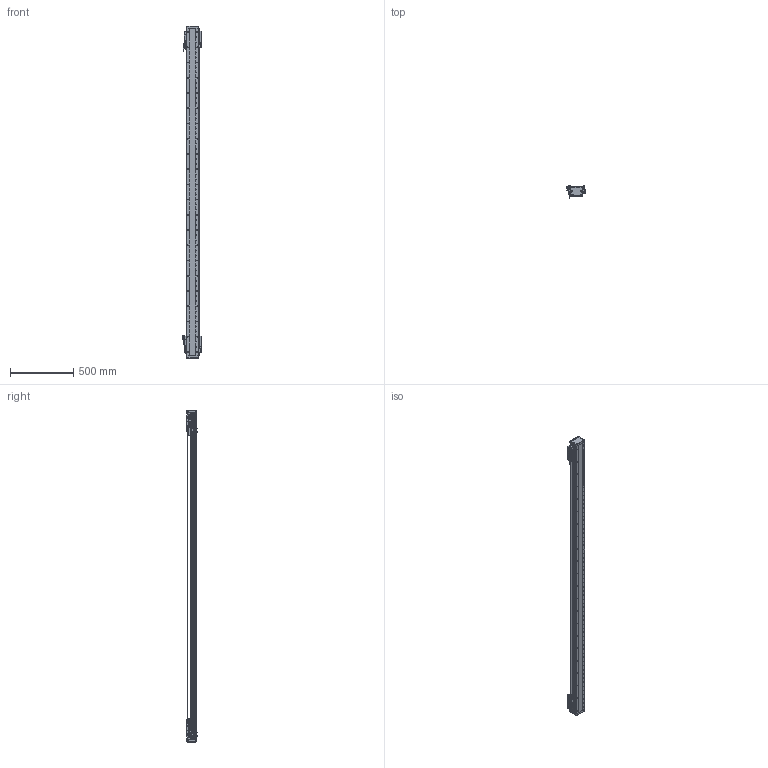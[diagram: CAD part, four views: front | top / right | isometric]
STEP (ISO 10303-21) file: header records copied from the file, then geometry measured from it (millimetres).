
FILE_DESCRIPTION (( 'STEP AP203' ), '1' );
FILE_NAME ('DA-B95-2-B15-T2240-C010-0.2 直线电机.STEP', '2023-05-06T06:38:16', ( '微软用户' ), ( '微软中国' ), 'SwSTEP 2.0', 'SolidWorks 2019', '' );
FILE_SCHEMA (( 'CONFIG_CONTROL_DESIGN' ));
Length unit declared in the file: millimetre
Products named in the file (34): 66245-BU95-V-00 珨极趙賑雄怢啣; 复件 66245-BU95-HT-V-01 滑动台板^66245-BU95-V-00 一体化滑动台板; 葩璃 PM-Y45^DA-A95-B15-T-C010-0.2-N 眻盄萇儂; 复件 DA95-DK-00 挡块^66245-BU95-V 滚珠滑台; IU-BU95-L 菁釱絳寢; B15 XD-U-02L ｴﾅﾕ､ｳﾟ^DA-A95-B15-T-C010-0.2-N ﾖｱﾏﾟｵ扈銈XD-U-02L; 66245-BU95-V 幗紩賑怢; 复件 DKW-GYP-ZJ-00 中间光电感应片^DA-A95-B15-T-C010-0.2-N 直线电机; 复件 DKW-KGZ-ZJ-00 中间光电开关支架^DA-A95-B15-T-C010-0.2-N 直线电机; DA95-HXJ-00 缓冲橡胶^DA-A95-B15-T-C010-0.2-N 直线电机; 复件 DKW-HXJ-JY-00 缓冲橡胶^DA-A95-B15-T-C010-0.2-N 直线电机; DA-B95-2-B15-T2240-C010-0.2 眻盄萇儂; 复件 复件 18252-0001-004-00 钢带端盖^DA-A95-B15-T-C010-0.2-N 直线电机; LMDK-2-R001-V5-L02-C1-F00，0.2M 读数头^DA-A95-B15-T-C010-0.2-N 直线电机_DMA-010-0.2; 复件 DA95-B15 钢带盖板^DA-A95-B15-T-C010-0.2-N 直线电机; 葩璃 BKMA01-W060-TRL^DA-A95-B15-T-C010-0.2-N 眻盄萇儂; 葩璃 DA95-B15-DP-A-00 菜えA^66245-BU95-V 幗紩賑怢; 葩璃 DA95-GT-T-00^IU-BU95-L 菁釱絳寢_DA95; DA-A95-GYP-00 光电感应片^DA-A95-B15-T-C010-0.2-N 直线电机; 复件 DA95-B15-YB-B-00 压板B^66245-BU95-V 滚珠滑台; 复件 DA95-HK-GT-00 滑块钢轨^66245-BU95-V-00 一体化滑动台板; 复件 六角薄螺母 M3^DA-A95-B15-T-C010-0.2-N 直线电机_GB_FASTENER_NUT_STNAB M3-C; 复件 复件 18252-0001-003-00 钢带拉块^DA-A95-B15-T-C010-0.2-N 直线电机; 复件 DA95-DB-00  挡板^66245-BU95-V 滚珠滑台; 葩璃 BKM015-W060-C1-TP-DA-0.2^DA-A95-B15-T-C010-0.2-N 眻盄萇儂; 复件 纯铜油杯 6x6mm^66245-BU95-V 滚珠滑台; 葩璃 DA95-B15-DP--B-00 菜えB^66245-BU95-V 幗紩賑怢; IU-BU95-L-00 菁釱_L2580; 复件 DA95-MFP-01 密封片^66245-BU95-V 滚珠滑台; 复件 DA95-B15-YB-A-00 压板A^66245-BU95-V 滚珠滑台; PM-T45 光电开关^DA-A95-B15-T-C010-0.2-N 直线电机; 复件 复件 18252-0001-002-00 钢带垫块^DA-A95-B15-T-C010-0.2-N 直线电机
Assembly tree (80 placements, depth 4):
  DA-B95-2-B15-T2240-C010-0.2 眻盄萇儂
    IU-BU95-L 菁釱絳寢
      IU-BU95-L-00 菁釱_L2580
      葩璃 DA95-GT-T-00^IU-BU95-L 菁釱絳寢_DA95  x2
    66245-BU95-V 幗紩賑怢
      66245-BU95-V-00 珨极趙賑雄怢啣
        复件 66245-BU95-HT-V-01 滑动台板^66245-BU95-V-00 一体化滑动台板
        复件 DA95-HK-GT-00 滑块钢轨^66245-BU95-V-00 一体化滑动台板  x2
      葩璃 DA95-B15-DP-A-00 菜えA^66245-BU95-V 幗紩賑怢
      复件 DA95-B15-YB-A-00 压板A^66245-BU95-V 滚珠滑台
      复件 DA95-B15-YB-B-00 压板B^66245-BU95-V 滚珠滑台
      复件 DA95-DB-00  挡板^66245-BU95-V 滚珠滑台  x4
      复件 DA95-DK-00 挡块^66245-BU95-V 滚珠滑台  x2
      复件 DA95-MFP-01 密封片^66245-BU95-V 滚珠滑台  x4
      复件 纯铜油杯 6x6mm^66245-BU95-V 滚珠滑台  x2
      葩璃 DA95-B15-DP--B-00 菜えB^66245-BU95-V 幗紩賑怢
    66245-BU95-V 幗紩賑怢
      66245-BU95-V-00 珨极趙賑雄怢啣
        复件 66245-BU95-HT-V-01 滑动台板^66245-BU95-V-00 一体化滑动台板
        复件 DA95-HK-GT-00 滑块钢轨^66245-BU95-V-00 一体化滑动台板  x2
      葩璃 DA95-B15-DP-A-00 菜えA^66245-BU95-V 幗紩賑怢
      复件 DA95-B15-YB-A-00 压板A^66245-BU95-V 滚珠滑台
      复件 DA95-B15-YB-B-00 压板B^66245-BU95-V 滚珠滑台
      复件 DA95-DB-00  挡板^66245-BU95-V 滚珠滑台  x4
      复件 DA95-DK-00 挡块^66245-BU95-V 滚珠滑台  x2
      复件 DA95-MFP-01 密封片^66245-BU95-V 滚珠滑台  x4
      复件 纯铜油杯 6x6mm^66245-BU95-V 滚珠滑台  x2
      葩璃 DA95-B15-DP--B-00 菜えB^66245-BU95-V 幗紩賑怢
    DA-A95-GYP-00 光电感应片^DA-A95-B15-T-C010-0.2-N 直线电机  x2
    LMDK-2-R001-V5-L02-C1-F00，0.2M 读数头^DA-A95-B15-T-C010-0.2-N 直线电机_DMA-010-0.2  x2
    复件 DKW-KGZ-ZJ-00 中间光电开关支架^DA-A95-B15-T-C010-0.2-N 直线电机
    葩璃 PM-Y45^DA-A95-B15-T-C010-0.2-N 眻盄萇儂
    复件 DKW-GYP-ZJ-00 中间光电感应片^DA-A95-B15-T-C010-0.2-N 直线电机
    葩璃 BKM015-W060-C1-TP-DA-0.2^DA-A95-B15-T-C010-0.2-N 眻盄萇儂  x2
    复件 DKW-HXJ-JY-00 缓冲橡胶^DA-A95-B15-T-C010-0.2-N 直线电机  x2
    PM-T45 光电开关^DA-A95-B15-T-C010-0.2-N 直线电机  x4
    B15 XD-U-02L ｴﾅﾕ､ｳﾟ^DA-A95-B15-T-C010-0.2-N ﾖｱﾏﾟｵ扈銈XD-U-02L
    复件 复件 18252-0001-003-00 钢带拉块^DA-A95-B15-T-C010-0.2-N 直线电机  x2
    复件 复件 18252-0001-002-00 钢带垫块^DA-A95-B15-T-C010-0.2-N 直线电机  x2
    复件 复件 18252-0001-004-00 钢带端盖^DA-A95-B15-T-C010-0.2-N 直线电机  x2
    复件 DA95-B15 钢带盖板^DA-A95-B15-T-C010-0.2-N 直线电机
    DA95-HXJ-00 缓冲橡胶^DA-A95-B15-T-C010-0.2-N 直线电机  x4
    葩璃 BKMA01-W060-TRL^DA-A95-B15-T-C010-0.2-N 眻盄萇儂
    复件 六角薄螺母 M3^DA-A95-B15-T-C010-0.2-N 直线电机_GB_FASTENER_NUT_STNAB M3-C  x6
Bounding box: 145.4 x 90.2 x 2616 mm (x, y, z)
Volume: 8461657.6 mm3; surface area: 2805287.5 mm2
Topology: 75 solids, 93 shells, 4236 faces, 11956 edges, 7583 vertices
Faces by surface type: cylinder 2181, plane 1523, cone 464, torus 64, sphere 4
Entity records: 103206 total; most frequent: CARTESIAN_POINT 27184, ORIENTED_EDGE 15270, DIRECTION 14738, EDGE_CURVE 7635, AXIS2_PLACEMENT_3D 5609, VERTEX_POINT 4985, LINE 3520, VECTOR 3520
